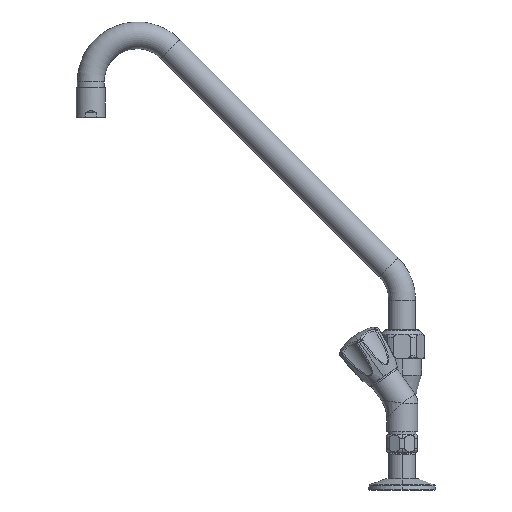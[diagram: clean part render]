
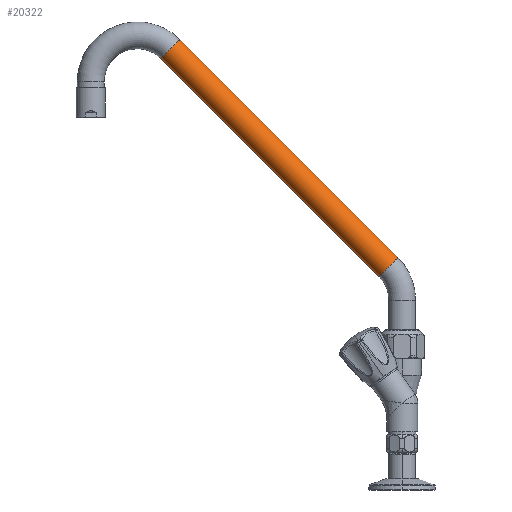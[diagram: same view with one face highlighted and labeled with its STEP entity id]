
A CAD part, left-side view. The second image highlights one B-rep face of the part: STEP entity #20322.
In plain terms, the highlighted cylindrical face has radius 13 mm (diameter 26 mm), a partial arc.
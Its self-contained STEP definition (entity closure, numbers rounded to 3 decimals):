
#8177=DIRECTION('',(0.,0.707,0.707));
#8178=VECTOR('',#8177,298.4);
#8179=CARTESIAN_POINT('',(0.,3.988,140.512));
#8180=LINE('',#8179,#8178);
#8181=CARTESIAN_POINT('',(0.,13.18,131.32));
#8182=DIRECTION('',(0.,0.707,0.707));
#8183=DIRECTION('',(0.,0.707,-0.707));
#8184=AXIS2_PLACEMENT_3D('',#8181,#8182,#8183);
#8186=DIRECTION('',(0.,0.707,0.707));
#8187=VECTOR('',#8186,298.4);
#8188=CARTESIAN_POINT('',(0.,22.373,122.127));
#8189=LINE('',#8188,#8187);
#8190=CARTESIAN_POINT('',(0.,224.181,342.32));
#8191=DIRECTION('',(0.,0.707,0.707));
#8192=DIRECTION('',(0.,0.707,-0.707));
#8193=AXIS2_PLACEMENT_3D('',#8190,#8191,#8192);
#8898=CARTESIAN_POINT('',(0.,3.988,140.512));
#8899=CARTESIAN_POINT('',(0.,22.373,122.127));
#8900=VERTEX_POINT('',#8898);
#8901=VERTEX_POINT('',#8899);
#8902=CARTESIAN_POINT('',(0.,214.988,351.513));
#8903=CARTESIAN_POINT('',(0.,233.373,333.128));
#8904=VERTEX_POINT('',#8902);
#8905=VERTEX_POINT('',#8903);
#20310=CARTESIAN_POINT('',(0.,13.18,131.32));
#20311=DIRECTION('',(0.,0.707,0.707));
#20312=DIRECTION('',(0.,-0.707,0.707));
#20313=AXIS2_PLACEMENT_3D('',#20310,#20311,#20312);
#20314=CYLINDRICAL_SURFACE('',#20313,13.);
#20315=ORIENTED_EDGE('',*,*,#9197,.F.);
#20316=ORIENTED_EDGE('',*,*,#20293,.T.);
#20318=ORIENTED_EDGE('',*,*,#20317,.T.);
#20319=ORIENTED_EDGE('',*,*,#20289,.F.);
#20320=EDGE_LOOP('',(#20315,#20316,#20318,#20319));
#20321=FACE_OUTER_BOUND('',#20320,.F.);
#8185=CIRCLE('',#8184,13.);
#8194=CIRCLE('',#8193,13.);
#9197=EDGE_CURVE('',#8901,#8900,#8185,.T.);
#20289=EDGE_CURVE('',#8900,#8904,#8180,.T.);
#20293=EDGE_CURVE('',#8901,#8905,#8189,.T.);
#20317=EDGE_CURVE('',#8905,#8904,#8194,.T.);
#20322=ADVANCED_FACE('',(#20321),#20314,.T.);
